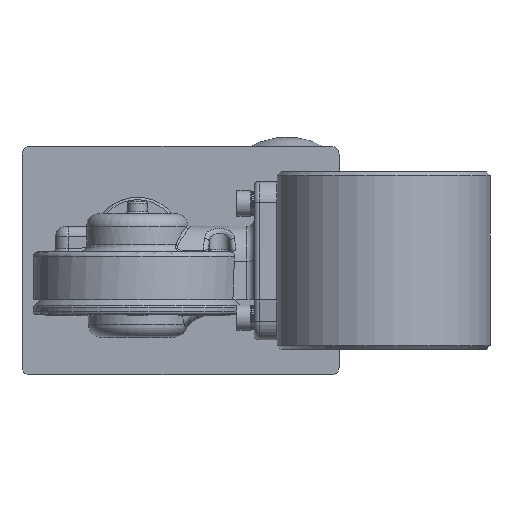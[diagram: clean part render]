
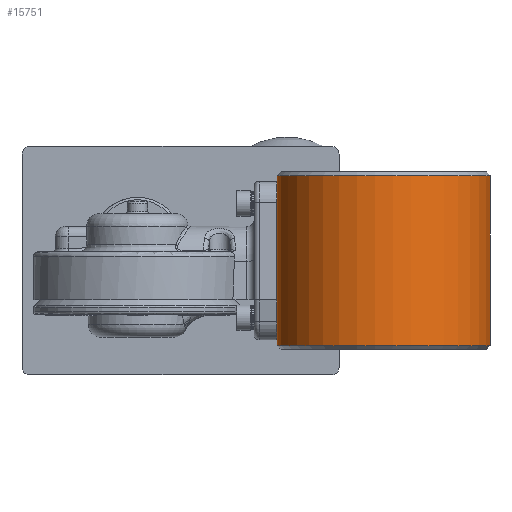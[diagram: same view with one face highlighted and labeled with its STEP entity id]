
A CAD part, left-side view. The second image highlights one B-rep face of the part: STEP entity #15751.
In plain terms, the highlighted cylindrical face has radius 42 mm (diameter 84 mm), a partial arc.
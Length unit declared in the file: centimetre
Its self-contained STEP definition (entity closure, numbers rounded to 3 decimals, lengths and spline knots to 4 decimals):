
#2906=VECTOR('',#20079,1.);
#2908=VECTOR('',#20081,1.);
#3909=LINE('',#34146,#2906);
#3911=LINE('',#34158,#2908);
#6151=VERTEX_POINT('',#34133);
#6152=VERTEX_POINT('',#34135);
#6156=VERTEX_POINT('',#34147);
#6159=VERTEX_POINT('',#34157);
#6705=CIRCLE('',#16980,4.2);
#6709=CIRCLE('',#16986,4.2);
#8652=EDGE_CURVE('',#6151,#6152,#6705,.T.);
#8657=EDGE_CURVE('',#6152,#6156,#3909,.T.);
#8661=EDGE_CURVE('',#6151,#6159,#3911,.T.);
#8663=EDGE_CURVE('',#6156,#6159,#6709,.T.);
#12558=ORIENTED_EDGE('',*,*,#8652,.F.);
#12559=ORIENTED_EDGE('',*,*,#8661,.T.);
#12560=ORIENTED_EDGE('',*,*,#8663,.F.);
#12561=ORIENTED_EDGE('',*,*,#8657,.F.);
#13728=EDGE_LOOP('',(#12558,#12559,#12560,#12561));
#14872=FACE_BOUND('',#13728,.T.);
#15751=ADVANCED_FACE('',(#14872),#34464,.T.);
#16980=AXIS2_PLACEMENT_3D('',#34134,#20070,#20071);
#16985=AXIS2_PLACEMENT_3D('',#34160,#20083,#20084);
#16986=AXIS2_PLACEMENT_3D('',#34161,#20085,#20086);
#20070=DIRECTION('',(0.,0.,1.));
#20071=DIRECTION('',(-4.2,0.,0.));
#20079=DIRECTION('',(0.,0.,-1.));
#20081=DIRECTION('',(0.,0.,-1.));
#20083=DIRECTION('',(0.,0.,-1.));
#20084=DIRECTION('',(-4.2,0.,0.));
#20085=DIRECTION('',(0.,0.,-1.));
#20086=DIRECTION('',(-4.2,0.,0.));
#34133=CARTESIAN_POINT('',(-5.519,-5.4887,5.5968));
#34134=CARTESIAN_POINT('',(-9.519,-6.7693,5.5968));
#34135=CARTESIAN_POINT('',(-5.519,-8.05,5.5968));
#34146=CARTESIAN_POINT('',(-5.519,-8.05,5.7468));
#34147=CARTESIAN_POINT('',(-5.519,-8.05,-1.1032));
#34157=CARTESIAN_POINT('',(-5.519,-5.4887,-1.1032));
#34158=CARTESIAN_POINT('',(-5.519,-5.4887,5.7468));
#34160=CARTESIAN_POINT('',(-9.519,-6.7693,5.7468));
#34161=CARTESIAN_POINT('',(-9.519,-6.7693,-1.1032));
#34464=CYLINDRICAL_SURFACE('',#16985,4.2);
